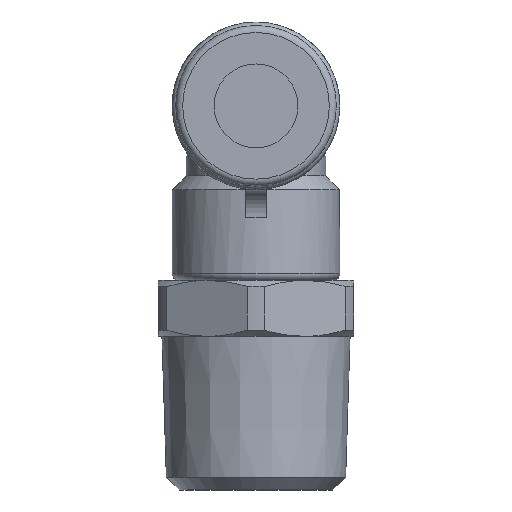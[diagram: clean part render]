
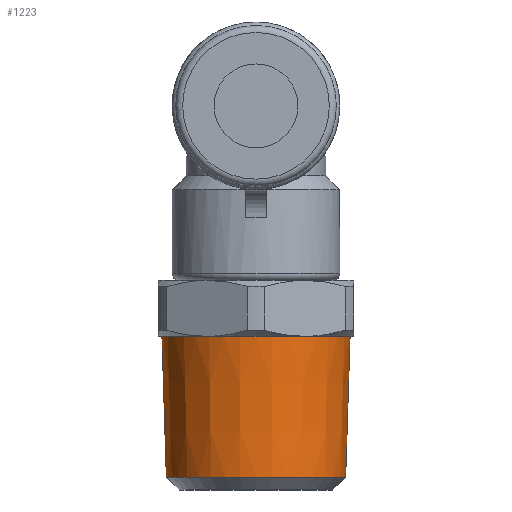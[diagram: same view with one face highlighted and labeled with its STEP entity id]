
A CAD part, left-side view. The second image highlights one B-rep face of the part: STEP entity #1223.
In plain terms, the highlighted conical face has half-angle 1.79 degrees and reference radius 6.579 mm.
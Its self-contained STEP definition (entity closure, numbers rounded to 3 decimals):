
#54=FACE_BOUND($,#350,.T.);
#254=FACE_OUTER_BOUND($,#349,.T.);
#349=EDGE_LOOP($,(#958));
#350=EDGE_LOOP($,(#959));
#450=CIRCLE($,#1349,6.419);
#451=CIRCLE($,#1351,6.735);
#589=VERTEX_POINT($,#2111);
#590=VERTEX_POINT($,#2114);
#729=EDGE_CURVE($,#589,#589,#450,.T.);
#730=EDGE_CURVE($,#590,#590,#451,.F.);
#958=ORIENTED_EDGE($,*,*,#730,.F.);
#959=ORIENTED_EDGE($,*,*,#729,.T.);
#1175=CONICAL_SURFACE($,#1350,6.579,1.79);
#1223=ADVANCED_FACE($,(#254,#54),#1175,.T.);
#1349=AXIS2_PLACEMENT_3D($,#2112,#1623,#1624);
#1350=AXIS2_PLACEMENT_3D($,#2113,#1625,#1626);
#1351=AXIS2_PLACEMENT_3D($,#2115,#1627,#1628);
#1623=DIRECTION('center_axis',(0.,0.,
1.));
#1624=DIRECTION('ref_axis',(-1.,0.,0.));
#1625=DIRECTION('center_axis',(0.,0.,
1.));
#1626=DIRECTION('ref_axis',(1.,0.,0.));
#1627=DIRECTION('center_axis',(0.,0.,
-1.));
#1628=DIRECTION('ref_axis',(1.,0.,0.));
#2111=CARTESIAN_POINT('',(0.,6.419,-26.6));
#2112=CARTESIAN_POINT('Origin',(0.,0.,
-26.6));
#2113=CARTESIAN_POINT('Origin',(0.,0.,
-21.5));
#2114=CARTESIAN_POINT('',(0.,6.735,-16.5));
#2115=CARTESIAN_POINT('Origin',(0.,0.,
-16.5));
